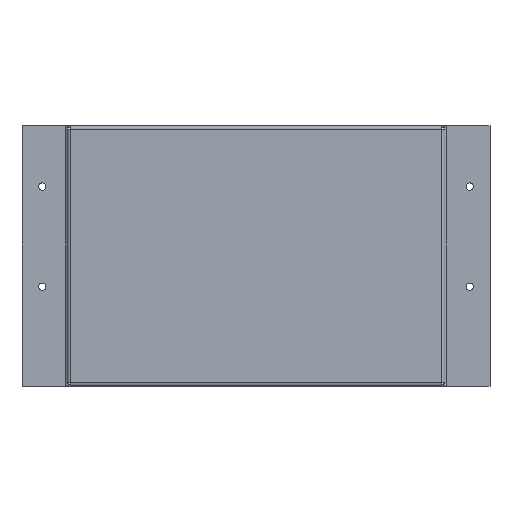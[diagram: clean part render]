
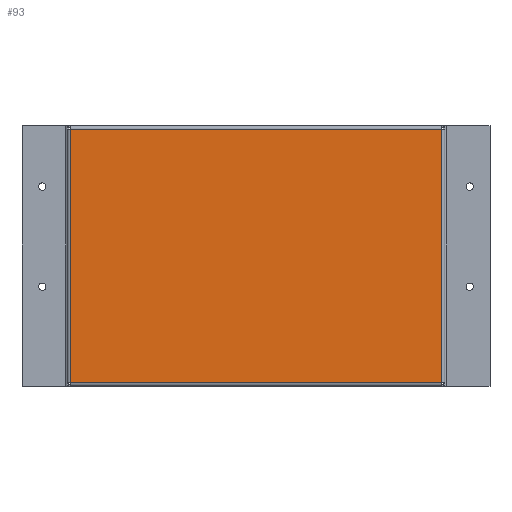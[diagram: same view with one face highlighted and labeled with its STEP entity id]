
A CAD part, top view. The second image highlights one B-rep face of the part: STEP entity #93.
In plain terms, the highlighted planar face has unit normal (0, 0, 1).
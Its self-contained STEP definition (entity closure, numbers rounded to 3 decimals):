
#93 = ADVANCED_FACE ( 'NONE', ( #586 ), #1666, .F. ) ;
#170 = EDGE_CURVE ( 'NONE', #878, #861, #1401, .T. ) ;
#171 = EDGE_CURVE ( 'NONE', #875, #861, #1398, .T. ) ;
#172 = EDGE_CURVE ( 'NONE', #878, #847, #1395, .T. ) ;
#173 = EDGE_CURVE ( 'NONE', #847, #875, #1392, .T. ) ;
#311 = VECTOR ( 'NONE', #1390, 1000. ) ;
#312 = VECTOR ( 'NONE', #1393, 1000. ) ;
#313 = VECTOR ( 'NONE', #1396, 1000. ) ;
#314 = VECTOR ( 'NONE', #1399, 1000. ) ;
#586 = FACE_OUTER_BOUND ( 'NONE', #1810, .T. ) ;
#594 = AXIS2_PLACEMENT_3D ( 'NONE', #1665, #1664, #1663 ) ;
#847 = VERTEX_POINT ( 'NONE', #1020 ) ;
#861 = VERTEX_POINT ( 'NONE', #1007 ) ;
#875 = VERTEX_POINT ( 'NONE', #993 ) ;
#878 = VERTEX_POINT ( 'NONE', #990 ) ;
#990 = CARTESIAN_POINT ( 'NONE',  ( -139.1, -95.1, 0. ) ) ;
#993 = CARTESIAN_POINT ( 'NONE',  ( 139.1, 95.1, 0. ) ) ;
#1007 = CARTESIAN_POINT ( 'NONE',  ( -139.1, 95.1, 0. ) ) ;
#1020 = CARTESIAN_POINT ( 'NONE',  ( 139.1, -95.1, 0. ) ) ;
#1390 = DIRECTION ( 'NONE',  ( 0., 1., 0. ) ) ;
#1391 = CARTESIAN_POINT ( 'NONE',  ( 139.1, -97.5, 0. ) ) ;
#1392 = LINE ( 'NONE', #1391, #311 ) ;
#1393 = DIRECTION ( 'NONE',  ( 1., 0., 0. ) ) ;
#1394 = CARTESIAN_POINT ( 'NONE',  ( -139.1, -95.1, 0. ) ) ;
#1395 = LINE ( 'NONE', #1394, #312 ) ;
#1396 = DIRECTION ( 'NONE',  ( -1., 0., 0. ) ) ;
#1397 = CARTESIAN_POINT ( 'NONE',  ( 139.1, 95.1, 0. ) ) ;
#1398 = LINE ( 'NONE', #1397, #313 ) ;
#1399 = DIRECTION ( 'NONE',  ( 0., 1., 0. ) ) ;
#1400 = CARTESIAN_POINT ( 'NONE',  ( -139.1, -97.5, 0. ) ) ;
#1401 = LINE ( 'NONE', #1400, #314 ) ;
#1663 = DIRECTION ( 'NONE',  ( -1., 0., 0. ) ) ;
#1664 = DIRECTION ( 'NONE',  ( 0., 0., -1. ) ) ;
#1665 = CARTESIAN_POINT ( 'NONE',  ( -141.5, -97.5, 0. ) ) ;
#1666 = PLANE ( 'NONE',  #594 ) ;
#1810 = EDGE_LOOP ( 'NONE', ( #1889, #1891, #1890, #1892 ) ) ;
#1889 = ORIENTED_EDGE ( 'NONE', *, *, #171, .T. ) ;
#1890 = ORIENTED_EDGE ( 'NONE', *, *, #172, .T. ) ;
#1891 = ORIENTED_EDGE ( 'NONE', *, *, #170, .F. ) ;
#1892 = ORIENTED_EDGE ( 'NONE', *, *, #173, .T. ) ;
